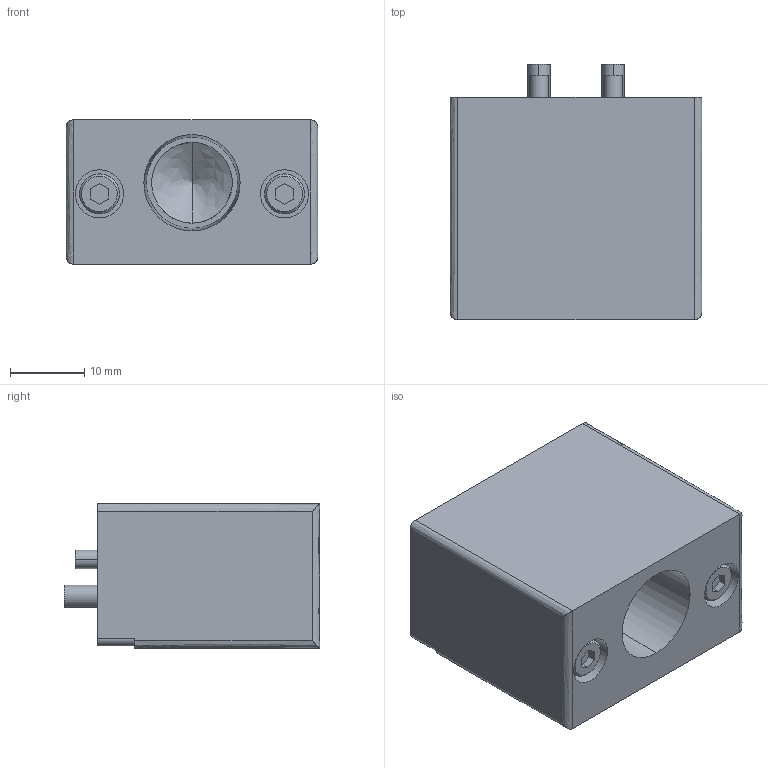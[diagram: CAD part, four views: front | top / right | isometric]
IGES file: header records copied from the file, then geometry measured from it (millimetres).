
Start section: 3D InterOp IGES (v. 2022 1.0.0), Spatial Corp. Copyright (c) 1999-2020.
Global section: file name: KHB-3RS-EP81_ver1.igs; native system: Spatial Corp.; preprocessor: 3D InterOp GENERIC/IGES 3.0; author: Noname; organization: Noname; date: 20260424.094746; units: millimetre
Bounding box: 34 x 34.5 x 19.5 mm (x, y, z)
Surface area: 7130.3 mm2 (no closed solid volume)
Topology: 0 solids, 0 shells, 143 faces, 608 edges, 606 vertices
Faces by surface type: revolution 76, extrusion 67
